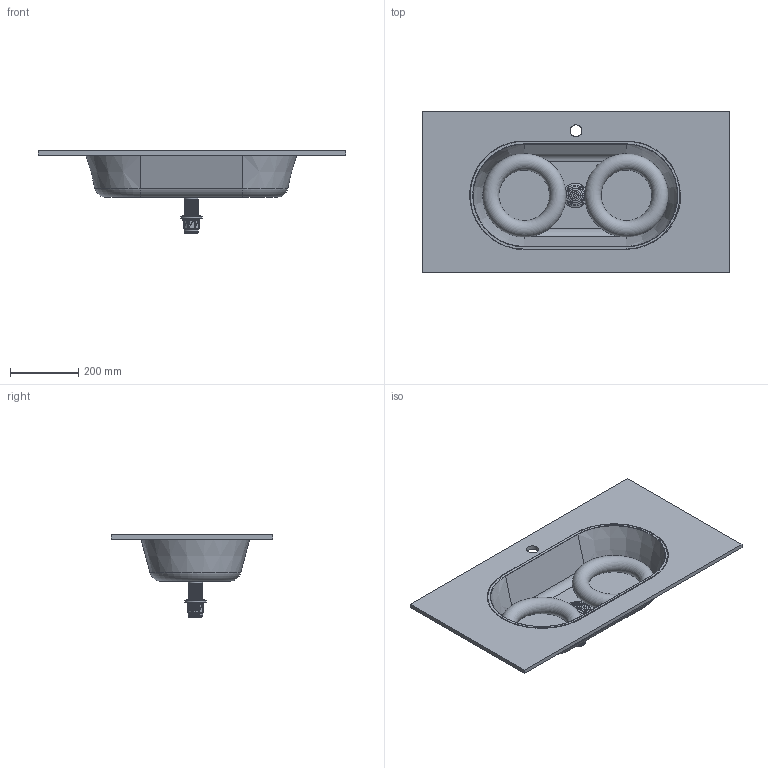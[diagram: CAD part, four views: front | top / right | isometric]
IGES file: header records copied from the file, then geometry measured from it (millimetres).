
Start section: Data from Parasolid IGES Translator 19.0.9, Copyright(c) 2006 Siemens PL M Software. All Rights Reserved.
Global section: file name: noorth-top-H 1,2 D 47,3 W 90_6529.igs; native system: By Siemens PLM Incorporated; preprocessor: XPlus GENERIC/IGES 19.0.9; author: Noname; organization: Noname; date: 20200603.092714; units: metre
Bounding box: 900 x 472 x 240 mm (x, y, z)
Volume: 8858333.6 mm3; surface area: 1383816.8 mm2
Topology: 2 solids, 2 shells, 11667 faces, 34972 edges, 34926 vertices
Faces by surface type: extrusion 11618, plane 17, cylinder 15, torus 10, cone 5, bspline 2
Full cylindrical faces by diameter (mm): 34.9 x1
